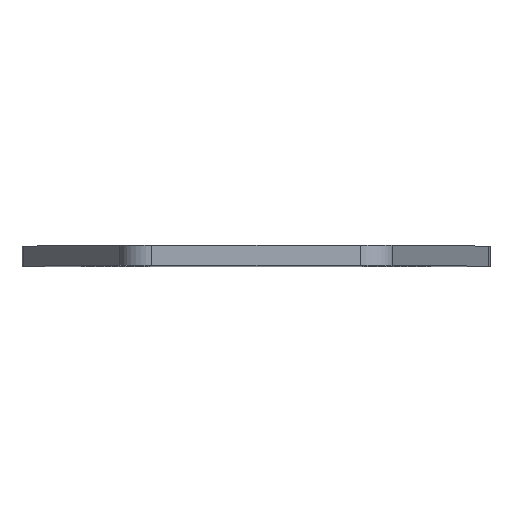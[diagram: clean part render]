
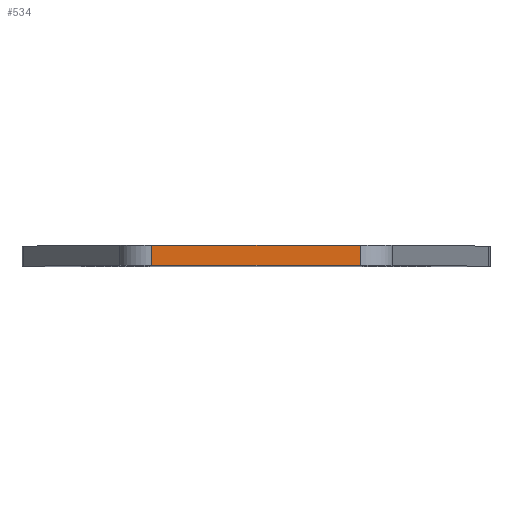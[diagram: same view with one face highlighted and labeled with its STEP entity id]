
A CAD part, top view. The second image highlights one B-rep face of the part: STEP entity #534.
In plain terms, the highlighted planar face has unit normal (0, 0, 1).
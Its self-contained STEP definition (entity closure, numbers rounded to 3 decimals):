
#19 = LINE ( 'NONE', #732, #471 ) ;
#40 = DIRECTION ( 'NONE',  ( 0., 0., -1. ) ) ;
#68 = ORIENTED_EDGE ( 'NONE', *, *, #570, .F. ) ;
#86 = ORIENTED_EDGE ( 'NONE', *, *, #105, .T. ) ;
#104 = DIRECTION ( 'NONE',  ( -1., 0., 0. ) ) ;
#105 = EDGE_CURVE ( 'NONE', #128, #157, #257, .T. ) ;
#115 = CARTESIAN_POINT ( 'NONE',  ( 15.612, 0., 50. ) ) ;
#128 = VERTEX_POINT ( 'NONE', #115 ) ;
#134 = DIRECTION ( 'NONE',  ( 1., 0., 0. ) ) ;
#157 = VERTEX_POINT ( 'NONE', #315 ) ;
#168 = ORIENTED_EDGE ( 'NONE', *, *, #349, .T. ) ;
#175 = VECTOR ( 'NONE', #348, 1000. ) ;
#192 = LINE ( 'NONE', #350, #428 ) ;
#204 = EDGE_CURVE ( 'NONE', #559, #128, #19, .T. ) ;
#239 = EDGE_LOOP ( 'NONE', ( #68, #168, #293, #86 ) ) ;
#257 = LINE ( 'NONE', #340, #175 ) ;
#293 = ORIENTED_EDGE ( 'NONE', *, *, #204, .T. ) ;
#315 = CARTESIAN_POINT ( 'NONE',  ( 15.612, 3., 50. ) ) ;
#340 = CARTESIAN_POINT ( 'NONE',  ( 15.612, 3., 50. ) ) ;
#348 = DIRECTION ( 'NONE',  ( 0., 1., 0. ) ) ;
#349 = EDGE_CURVE ( 'NONE', #548, #559, #192, .T. ) ;
#350 = CARTESIAN_POINT ( 'NONE',  ( -15.612, 0., 50. ) ) ;
#389 = PLANE ( 'NONE',  #701 ) ;
#417 = LINE ( 'NONE', #582, #608 ) ;
#428 = VECTOR ( 'NONE', #598, 1000. ) ;
#442 = FACE_OUTER_BOUND ( 'NONE', #239, .T. ) ;
#471 = VECTOR ( 'NONE', #134, 1000. ) ;
#523 = CARTESIAN_POINT ( 'NONE',  ( -15.612, 0., 50. ) ) ;
#534 = ADVANCED_FACE ( 'NONE', ( #442 ), #389, .F. ) ;
#548 = VERTEX_POINT ( 'NONE', #764 ) ;
#559 = VERTEX_POINT ( 'NONE', #523 ) ;
#570 = EDGE_CURVE ( 'NONE', #548, #157, #417, .T. ) ;
#581 = CARTESIAN_POINT ( 'NONE',  ( 35., 3., 50. ) ) ;
#582 = CARTESIAN_POINT ( 'NONE',  ( 35., 3., 50. ) ) ;
#598 = DIRECTION ( 'NONE',  ( 0., -1., 0. ) ) ;
#608 = VECTOR ( 'NONE', #761, 1000. ) ;
#701 = AXIS2_PLACEMENT_3D ( 'NONE', #581, #40, #104 ) ;
#732 = CARTESIAN_POINT ( 'NONE',  ( 35., 0., 50. ) ) ;
#761 = DIRECTION ( 'NONE',  ( 1., 0., 0. ) ) ;
#764 = CARTESIAN_POINT ( 'NONE',  ( -15.612, 3., 50. ) ) ;
